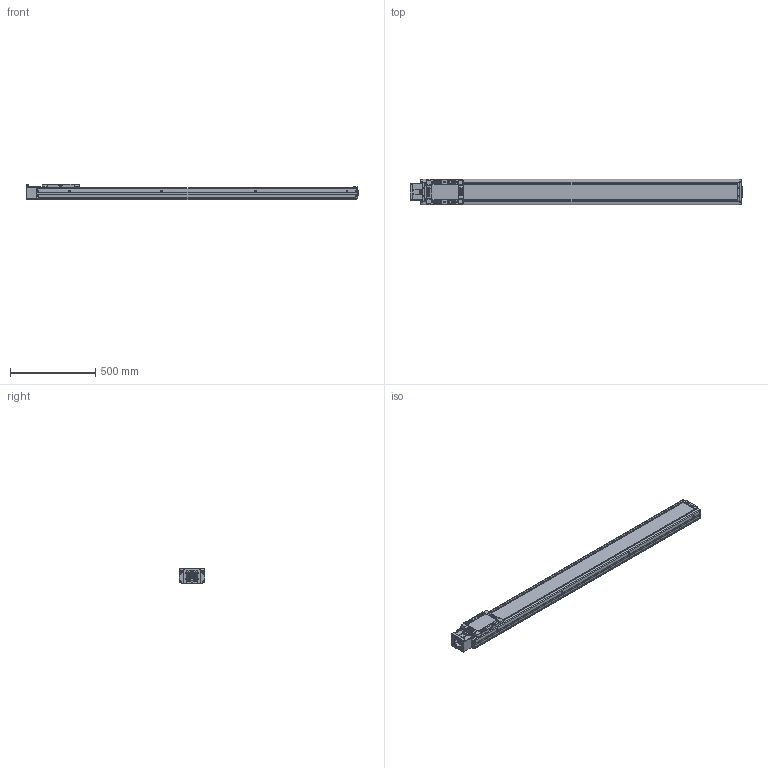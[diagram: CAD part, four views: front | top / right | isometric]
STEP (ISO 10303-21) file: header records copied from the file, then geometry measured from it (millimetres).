
FILE_DESCRIPTION(('STEP AP214'),'1');
FILE_NAME('Z:/Web/3D/SAN150/2013.04 (STP.)/SAN150ㅁㅁ-1600S.stp','2013-05-07T08:17:27',(' '),(' '),'Spatial InterOp 3D',' ',' ');
FILE_SCHEMA(('automotive_design'));
Length unit declared in the file: millimetre
Products named in the file (79): SLBL-SAN150; SLCV-SAN150; FHCS M4.0 x 8.0; BHCS M4.0 x 10.0; SFX-SAN150; RRCV-SAN150; FRBL-SAN150; Spacer; RN15; FRCV-SAN150; Screw 20; BASE-SAN150-000L ; SUS COVER; 스크루 : Round - M5.0 x 6.0; BHCS M3.0 x 6.0; SSFX-SAN65; CPLCV-SAN65; SDWA47C(2); SDWA47C(3-1); SDWA47C(3); SDWA47C(1); SDWA47C(4); SDWA47C(5); MTHZ-SAN150-80
Bounding box: 1949 x 150 x 90 mm (x, y, z)
Volume: 9946325.2 mm3; surface area: 1846386.4 mm2
Topology: 79 solids, 79 shells, 3169 faces, 8234 edges, 5280 vertices
Faces by surface type: cylinder 1319, plane 1272, cone 469, sphere 64, bspline 29, torus 16
Entity records: 128546 total; most frequent: CARTESIAN_POINT 21692, DIRECTION 17915, ORIENTED_EDGE 16156, EDGE_CURVE 8078, AXIS2_PLACEMENT_3D 6818, VERTEX_POINT 5280, LINE 4279, VECTOR 4279
